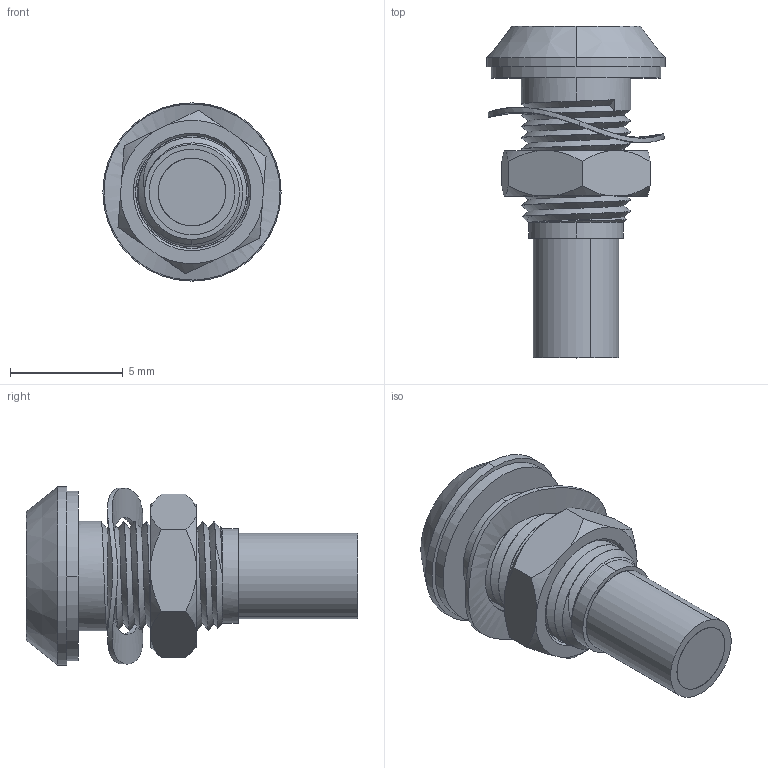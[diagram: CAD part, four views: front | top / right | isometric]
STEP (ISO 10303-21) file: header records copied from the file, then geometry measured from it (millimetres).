
FILE_DESCRIPTION (( 'STEP AP214' ), '1' );
FILE_NAME ('602-000-00-51.STEP', '2022-01-11T08:35:44', ( '' ), ( '' ), 'SwSTEP 2.0', 'SolidWorks 2021', '' );
FILE_SCHEMA (( 'AUTOMOTIVE_DESIGN' ));
Length unit declared in the file: millimetre
Products named in the file (8): PLP2-1000_-51; HeatShrink_-51; 5mm wavy washer; COM2421; COM3575 - COM3579_COM3579; COM10992; COM4316_1mm shorter; 602-000-00-51
Assembly tree (7 placements, depth 2):
  602-000-00-51
    COM10992
    5mm wavy washer
    COM2421
    PLP2-1000_-51
    COM3575 - COM3579_COM3579
    COM4316_1mm shorter
    HeatShrink_-51
Bounding box: 7.9 x 14.7 x 7.9 mm (x, y, z)
Volume: 258.4 mm3; surface area: 946.3 mm2
Topology: 7 solids, 7 shells, 171 faces, 378 edges, 238 vertices
Faces by surface type: cylinder 75, plane 35, torus 32, cone 25, bspline 4
Entity records: 6602 total; most frequent: CARTESIAN_POINT 2532, DIRECTION 839, ORIENTED_EDGE 754, EDGE_CURVE 377, AXIS2_PLACEMENT_3D 367, VERTEX_POINT 236, EDGE_LOOP 197, CIRCLE 190
